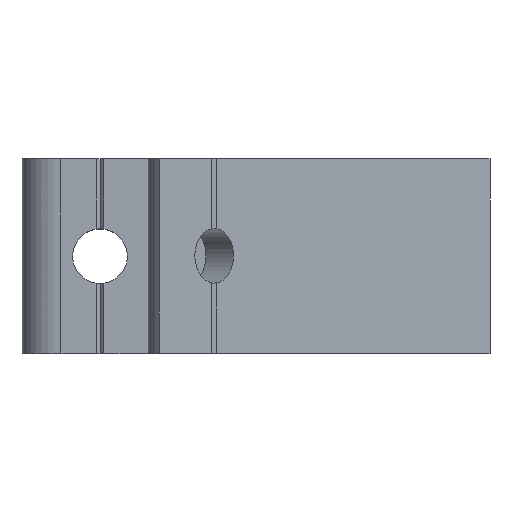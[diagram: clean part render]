
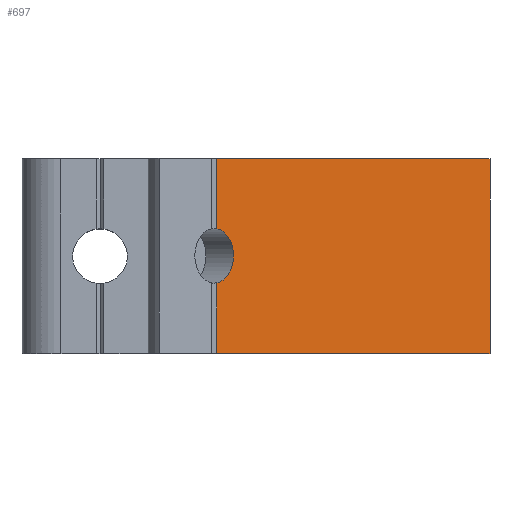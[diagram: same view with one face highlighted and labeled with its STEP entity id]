
A CAD part, top view. The second image highlights one B-rep face of the part: STEP entity #697.
In plain terms, the highlighted planar face has unit normal (0.707, 0, 0.707).
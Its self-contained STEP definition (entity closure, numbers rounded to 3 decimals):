
#35=CIRCLE('',#764,3.5);
#39=LINE('',#1003,#113);
#66=LINE('',#1079,#140);
#81=LINE('',#1109,#155);
#86=LINE('',#1120,#160);
#106=LINE('',#1166,#180);
#113=VECTOR('',#802,1000.);
#140=VECTOR('',#861,1000.);
#155=VECTOR('',#882,1000.);
#160=VECTOR('',#893,1000.);
#180=VECTOR('',#937,1000.);
#302=ORIENTED_EDGE('',*,*,#393,.F.);
#303=ORIENTED_EDGE('',*,*,#477,.T.);
#304=ORIENTED_EDGE('',*,*,#478,.F.);
#305=ORIENTED_EDGE('',*,*,#451,.F.);
#306=ORIENTED_EDGE('',*,*,#428,.T.);
#307=ORIENTED_EDGE('',*,*,#445,.T.);
#393=EDGE_CURVE('',#494,#496,#39,.T.);
#428=EDGE_CURVE('',#529,#528,#66,.T.);
#445=EDGE_CURVE('',#528,#496,#81,.T.);
#451=EDGE_CURVE('',#529,#544,#86,.T.);
#477=EDGE_CURVE('',#494,#557,#35,.T.);
#478=EDGE_CURVE('',#544,#557,#106,.T.);
#494=VERTEX_POINT('',#1001);
#496=VERTEX_POINT('',#1004);
#528=VERTEX_POINT('',#1078);
#529=VERTEX_POINT('',#1080);
#544=VERTEX_POINT('',#1121);
#557=VERTEX_POINT('',#1165);
#593=EDGE_LOOP('',(#302,#303,#304,#305,#306,#307));
#631=FACE_BOUND('',#593,.T.);
#667=PLANE('',#763);
#697=ADVANCED_FACE('',(#631),#667,.F.);
#763=AXIS2_PLACEMENT_3D('',#1163,#933,#934);
#764=AXIS2_PLACEMENT_3D('',#1164,#935,#936);
#802=DIRECTION('',(0.,1.,0.));
#861=DIRECTION('',(0.,1.,0.));
#882=DIRECTION('',(-0.707,0.,0.707));
#893=DIRECTION('',(-0.707,0.,0.707));
#933=DIRECTION('',(-0.707,0.,-0.707));
#934=DIRECTION('',(-0.707,0.,0.707));
#935=DIRECTION('',(-0.707,0.,-0.707));
#936=DIRECTION('',(-0.707,0.,0.707));
#937=DIRECTION('',(0.,1.,0.));
#1001=CARTESIAN_POINT('',(-35.002,3.464,35.002));
#1003=CARTESIAN_POINT('',(-35.002,-77.621,35.002));
#1004=CARTESIAN_POINT('',(-35.002,12.5,35.002));
#1078=CARTESIAN_POINT('',(0.,12.5,0.));
#1079=CARTESIAN_POINT('',(0.,-12.5,0.));
#1080=CARTESIAN_POINT('',(0.,-12.5,0.));
#1109=CARTESIAN_POINT('',(0.,12.5,0.));
#1120=CARTESIAN_POINT('',(0.,-12.5,0.));
#1121=CARTESIAN_POINT('',(-35.002,-12.5,35.002));
#1163=CARTESIAN_POINT('',(0.,-12.5,0.));
#1164=CARTESIAN_POINT('',(-35.355,0.,35.355));
#1165=CARTESIAN_POINT('',(-35.002,-3.464,35.002));
#1166=CARTESIAN_POINT('',(-35.002,-77.621,35.002));
